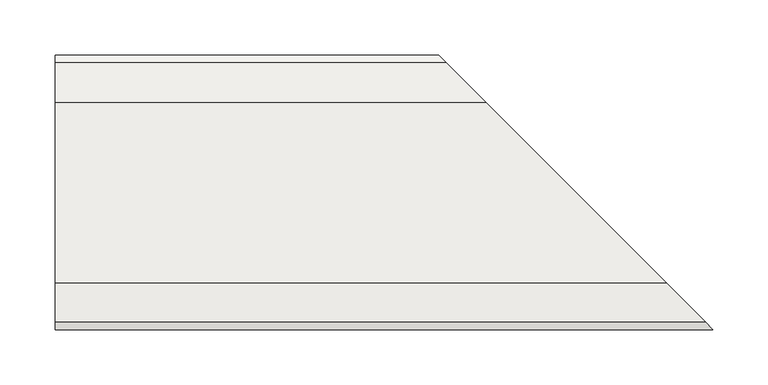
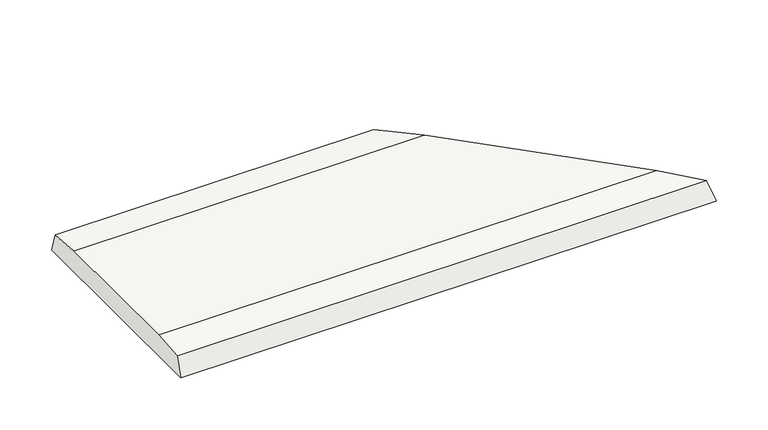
"""IFC4 building model written with IfcOpenShell, lengths in millimetres: slab geometry, ROSA GRES_I25 (corte-inclinación) : Pieza I25_Tresor_Java_Anti-Slip."""

from ifc_helpers import new_model, si_unit, frame, origin, place, context, project, spatial, circle_curve, ellipse_curve, source, transform, mapped, element, save
from ifc_brep_helpers import plane_surface, cylinder_surface, advanced_brep


def slab_32885ca8(model_context):
    return source(origin(), model_context, "Body", "AdvancedBrep", [
        advanced_brep(
        [(0.0, -6.8503894, 21.9708993), (0.0, 0.0, 0.0), (0.0, -248.9615625, 0.0), (0.0, -242.0848264, 22.0203494), (0.0, -206.6448784, 25.0413492), (0.0, -42.7380732, 25.0413492), (390.5980732, -42.7380732, 25.0413492), (354.7103894, -6.8503894, 21.9708993), (554.5048784, -206.6448784, 25.0413492), (589.9448264, -242.0848264, 22.0203494), (596.8215625, -248.9615625, 0.0), (347.86, 0.0, 0.0)],
        [
            (0, 1),
            (1, 2),
            (2, 3),
            (3, 4, circle_curve(frame((0.0, -163.0982439, -695.1998883), z_axis=(-1.0, 0.0, 0.0), x_axis=(0.0, -1.0, 0.0)), 721.556477)),
            (4, 5),
            (5, 0, circle_curve(frame((0.0, -86.2847076, -695.1998883), z_axis=(-1.0, 0.0, 0.0), x_axis=(0.0, -1.0, 0.0)), 721.556477)),
            (5, 6),
            (6, 7, ellipse_curve(frame((434.1447076, -86.2847076, -695.1998883), z_axis=(-0.7071067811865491, -0.7071067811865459, 0.0), x_axis=(-0.707106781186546, 0.7071067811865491, 0.0)), 1020.4349559, 721.556477)),
            (7, 0),
            (4, 8),
            (8, 6),
            (3, 9),
            (9, 8, ellipse_curve(frame((510.9582439, -163.0982439, -695.1998883), z_axis=(-0.7071067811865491, -0.7071067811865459, 0.0), x_axis=(-0.707106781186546, 0.7071067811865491, 0.0)), 1020.4349559, 721.556477)),
            (2, 10),
            (10, 9),
            (1, 11),
            (11, 10),
            (7, 11),
        ],
        [
            plane_surface(frame((0.0, -0.5879141, 0.0), z_axis=(-1.0, 0.0, 0.0), x_axis=(0.0, 0.0, 1.0))),
            cylinder_surface(frame((0.0, -86.2847076, -695.1998883), z_axis=(-1.0, 0.0, 0.0), x_axis=(0.0, -1.0, 0.0)), 721.556477),
            plane_surface(frame((0.0, -42.7380732, 25.0413492), z_axis=(0.0, 0.0, 1.0), x_axis=(1.0, 0.0, 0.0))),
            cylinder_surface(frame((0.0, -163.0982439, -695.1998883), z_axis=(-1.0, 0.0, 0.0), x_axis=(0.0, -1.0, 0.0)), 721.556477),
            plane_surface(frame((0.0, -242.0848264, 22.0203494), z_axis=(0.0, -0.9545370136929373, 0.2980924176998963), x_axis=(1.0, 0.0, 0.0))),
            plane_surface(frame((0.0, -248.9615625, 0.0), z_axis=(0.0, 0.0, -1.0), x_axis=(1.0, 0.0, 0.0))),
            plane_surface(frame((0.0, 0.0, 0.0), z_axis=(0.0, 0.9546717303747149, 0.2976606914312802), x_axis=(1.0, 0.0, 0.0))),
            plane_surface(frame((626.0, -278.14, 284.9871832), z_axis=(0.7071067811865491, 0.7071067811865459, 0.0), x_axis=(0.0, 0.0, -1.0))),
        ],
        [
            (0, [[1, 2, 3, 4, 5, 6]]),
            (1, [[7, 8, 9, -6]]),
            (2, [[10, 11, -7, -5]]),
            (3, [[12, 13, -10, -4]]),
            (4, [[14, 15, -12, -3]]),
            (5, [[16, 17, -14, -2]]),
            (6, [[-9, 18, -16, -1]]),
            (7, [[-11, -13, -15, -17, -18, -8]]),
        ],
    ),
    ])


if __name__ == "__main__":
    model = new_model("IFC4")
    model_context = context("Model", 3, world=origin())
    ifc_project = project(units=[si_unit("LENGTHUNIT", "METRE", prefix="MILLI")], contexts=[model_context])
    site = spatial("IfcSite", under=ifc_project)
    building = spatial("IfcBuilding", under=site)
    placement = place(None, origin())
    slab_shape = slab_32885ca8(model_context)
    element("IfcSlab", 1, ObjectType="ROSA GRES_I25 (corte-inclinación) : Pieza I25_Tresor_Java_Anti-Slip", at=placement, inside=building, context=model_context, shape_type="MappedRepresentation", body=[
        mapped(slab_shape, transform((0.0, 0.0, 0.0), x_axis=(1.0, 0.0, 0.0), y_axis=(0.0, 1.0, 0.0), z_axis=(0.0, 0.0, 1.0))),
    ])
    save(model, "model.ifc")
